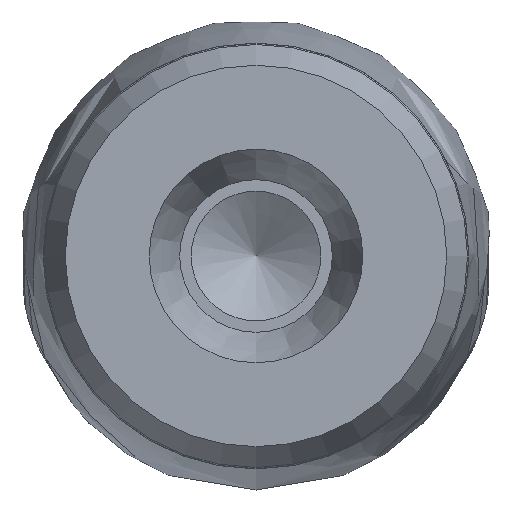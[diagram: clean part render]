
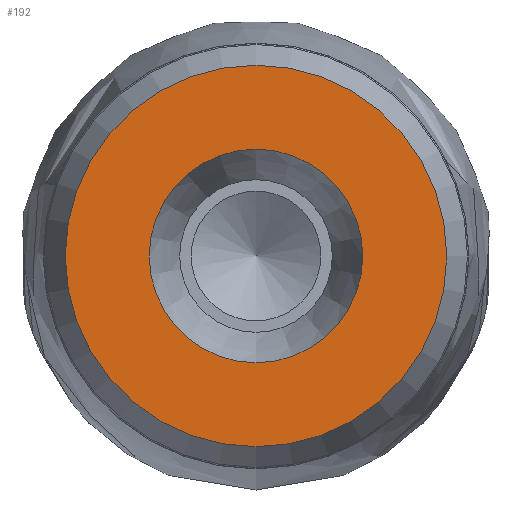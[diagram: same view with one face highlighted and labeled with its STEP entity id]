
A CAD part, left-side view. The second image highlights one B-rep face of the part: STEP entity #192.
In plain terms, the highlighted planar face has unit normal (-1, 0, 0).
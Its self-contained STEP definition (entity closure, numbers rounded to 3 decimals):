
#25=CARTESIAN_POINT('',(0.,0.,-12.5));
#26=VERTEX_POINT('',#25);
#43=CARTESIAN_POINT('',(0.,0.,0.));
#44=DIRECTION('',(-0.,0.,-1.));
#45=DIRECTION('',(1.,0.,0.));
#46=AXIS2_PLACEMENT_3D('',#43,#45,#44);
#47=CIRCLE('',#46,12.5);
#48=EDGE_CURVE('',#26,#26,#47,.T.);
#173=CARTESIAN_POINT('',(0.,0.,0.));
#174=DIRECTION('',(0.,0.,-1.));
#175=DIRECTION('',(1.,-0.,0.));
#176=AXIS2_PLACEMENT_3D('',#173,#175,#174);
#177=PLANE('',#176);
#178=ORIENTED_EDGE('',*,*,#48,.T.);
#179=EDGE_LOOP('',(#178));
#180=FACE_OUTER_BOUND('',#179,.F.);
#181=CARTESIAN_POINT('',(0.,0.,7.));
#182=VERTEX_POINT('',#181);
#183=CARTESIAN_POINT('',(0.,0.,0.));
#184=DIRECTION('',(-0.,0.,1.));
#185=DIRECTION('',(1.,0.,0.));
#186=AXIS2_PLACEMENT_3D('',#183,#185,#184);
#187=CIRCLE('',#186,7.);
#188=EDGE_CURVE('',#182,#182,#187,.T.);
#189=ORIENTED_EDGE('E14',*,*,#188,.F.);
#190=EDGE_LOOP('',(#189));
#191=FACE_BOUND('',#190,.F.);
#192=ADVANCED_FACE('F1',(#180,#191),#177,.F.);
